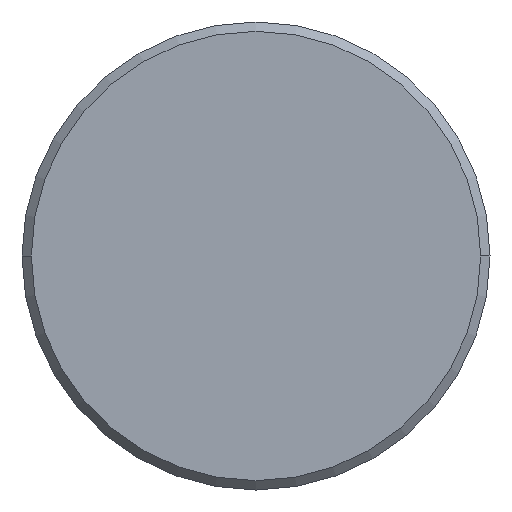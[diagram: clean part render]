
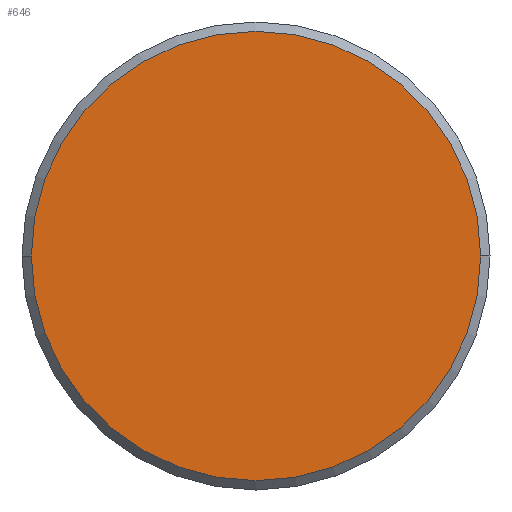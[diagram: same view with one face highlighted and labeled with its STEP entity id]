
A CAD part, front view. The second image highlights one B-rep face of the part: STEP entity #646.
In plain terms, the highlighted planar face has unit normal (0, -1, 0).
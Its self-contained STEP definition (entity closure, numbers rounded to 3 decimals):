
#30 = VERTEX_POINT ( 'NONE', #94 ) ;
#72 = CIRCLE ( 'NONE', #187, 12. ) ;
#92 = AXIS2_PLACEMENT_3D ( 'NONE', #293, #531, #655 ) ;
#94 = CARTESIAN_POINT ( 'NONE',  ( -12., -6., 0. ) ) ;
#136 = CARTESIAN_POINT ( 'NONE',  ( 0., -6., 0. ) ) ;
#173 = PLANE ( 'NONE',  #92 ) ;
#186 = CIRCLE ( 'NONE', #368, 12. ) ;
#187 = AXIS2_PLACEMENT_3D ( 'NONE', #136, #413, #417 ) ;
#273 = CARTESIAN_POINT ( 'NONE',  ( 12., -6., 0. ) ) ;
#293 = CARTESIAN_POINT ( 'NONE',  ( 0., -6., 0. ) ) ;
#368 = AXIS2_PLACEMENT_3D ( 'NONE', #614, #616, #611 ) ;
#413 = DIRECTION ( 'NONE',  ( 0., -1., 0. ) ) ;
#417 = DIRECTION ( 'NONE',  ( -1., 0., 0. ) ) ;
#465 = ORIENTED_EDGE ( 'NONE', *, *, #569, .T. ) ;
#495 = ORIENTED_EDGE ( 'NONE', *, *, #732, .T. ) ;
#531 = DIRECTION ( 'NONE',  ( 0., 1., 0. ) ) ;
#569 = EDGE_CURVE ( 'NONE', #735, #30, #186, .T. ) ;
#611 = DIRECTION ( 'NONE',  ( -1., 0., 0. ) ) ;
#614 = CARTESIAN_POINT ( 'NONE',  ( 0., -6., 0. ) ) ;
#616 = DIRECTION ( 'NONE',  ( 0., -1., 0. ) ) ;
#646 = ADVANCED_FACE ( 'NONE', ( #764 ), #173, .F. ) ;
#655 = DIRECTION ( 'NONE',  ( -1., 0., 0. ) ) ;
#732 = EDGE_CURVE ( 'NONE', #30, #735, #72, .T. ) ;
#735 = VERTEX_POINT ( 'NONE', #273 ) ;
#764 = FACE_OUTER_BOUND ( 'NONE', #809, .T. ) ;
#809 = EDGE_LOOP ( 'NONE', ( #495, #465 ) ) ;
